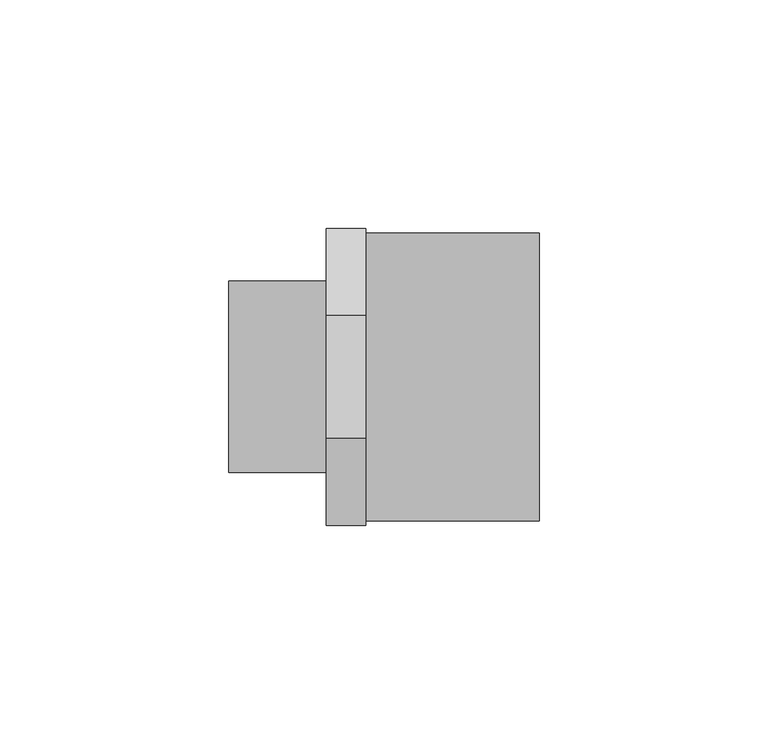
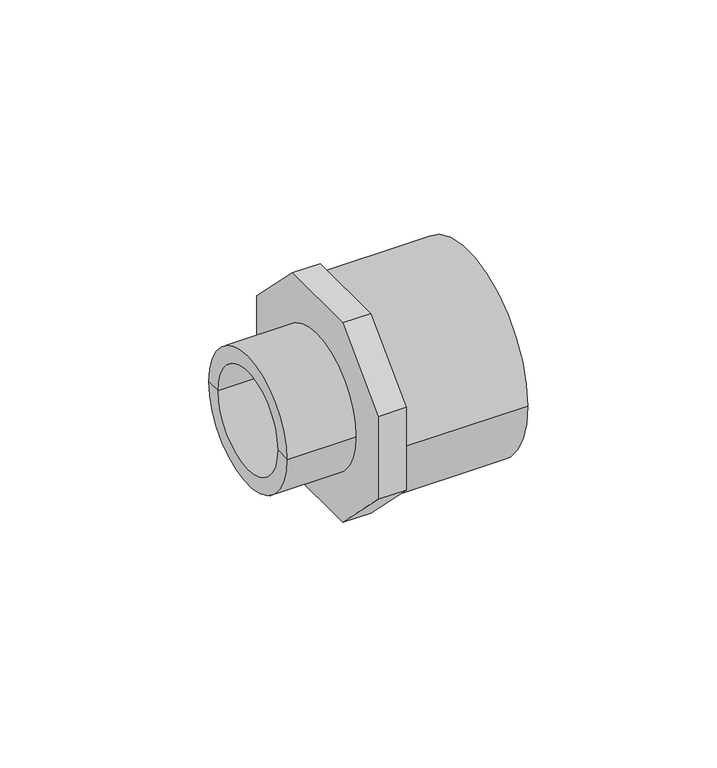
"""IFC4 building model written with IfcOpenShell, lengths in millimetres: pipe fitting geometry, Durapipe_PipeFitting_PVC_MaleThreadedAdaptors : 63 x 50 x G1-1⁄4."""

import ifcopenshell
import ifcopenshell.guid

model = None  # the IFC model being written
_history = None  # IfcOwnerHistory: only IFC2X3 demands one
_inside = {}  # id of a spatial element -> (the spatial element, [elements in it])
_under = {}  # id of a project, library or spatial element -> (it, [spatial elements below it])
_declared = {}  # id of a project -> (the project, [libraries it declares])
_typed = {}  # id of a type object -> (the type object, [elements of that type])
_made_of = {}  # id of a material, layer set ... -> (it, [elements and type objects made of it])


def new_model(schema):
    """Start an empty IFC model of exactly this schema.

    Asked for "IFC4X3", IfcOpenShell would pick the latest addendum, in which some entities
    have other attributes; the version numbers below select the first issue.
    IFC2X3 requires an IfcOwnerHistory on every rooted entity: one is made here for all.
    """
    global model, _history
    if schema == "IFC4X3":
        model = ifcopenshell.file(schema_version=(4, 3, 0, 0))
    else:
        model = ifcopenshell.file(schema=schema)
    _inside.clear()
    _under.clear()
    _declared.clear()
    _typed.clear()
    _made_of.clear()
    _history = None
    if model.schema == "IFC2X3":
        org = make("IfcOrganization", Name="unknown")
        user = make(
            "IfcPersonAndOrganization",
            ThePerson=make("IfcPerson", FamilyName="unknown"),
            TheOrganization=org,
        )
        app = make(
            "IfcApplication",
            ApplicationDeveloper=org,
            Version="unknown",
            ApplicationFullName="unknown",
            ApplicationIdentifier="unknown",
        )
        _history = make(
            "IfcOwnerHistory",
            OwningUser=user,
            OwningApplication=app,
            ChangeAction="ADDED",
            CreationDate=0,
        )
    return model


def make(cls, **values):
    """One entity of the class cls with the attributes given. An attribute that is None is left unset."""
    return model.create_entity(
        cls, **{name: value for name, value in values.items() if value is not None}
    )


def rooted(cls, **values):
    """An entity with a GlobalId (a new one), such as an element, a storey or a relation."""
    return make(cls, GlobalId=ifcopenshell.guid.new(), OwnerHistory=_history, **values)


def si_unit(unit_type, name, prefix=None):
    """IfcSIUnit, for example si_unit("LENGTHUNIT", "METRE", prefix="MILLI")."""
    return make("IfcSIUnit", UnitType=unit_type, Prefix=prefix, Name=name)


def assignment(units):
    """IfcUnitAssignment: the units of a project."""
    return None if units is None else make("IfcUnitAssignment", Units=units)


def point(xyz):
    """IfcCartesianPoint."""
    return None if xyz is None else make("IfcCartesianPoint", Coordinates=xyz)


def direction(xyz):
    """IfcDirection."""
    return None if xyz is None else make("IfcDirection", DirectionRatios=xyz)


def frame(location, z_axis=None, x_axis=None):
    """IfcAxis2Placement3D, a coordinate frame: its origin and axes. An axis left out is left unset."""
    return make(
        "IfcAxis2Placement3D",
        Location=point(location),
        Axis=direction(z_axis),
        RefDirection=direction(x_axis),
    )


def frame_2d(location, x_axis=None):
    """IfcAxis2Placement2D, a coordinate frame in the plane: its origin and x axis."""
    return make(
        "IfcAxis2Placement2D", Location=point(location), RefDirection=direction(x_axis)
    )


def origin():
    """The frame at (0, 0, 0) with its axes left unset."""
    return frame((0.0, 0.0, 0.0))


def origin_2d():
    """The frame at (0, 0) in the plane with its x axis left unset."""
    return frame_2d((0.0, 0.0))


def place(relative_to, where):
    """IfcLocalPlacement: puts the frame where relative to a parent placement (None: the world)."""
    return make(
        "IfcLocalPlacement", PlacementRelTo=relative_to, RelativePlacement=where
    )


def context(
    kind, dimensions, precision=None, world=None, true_north=None, identifier=None
):
    """IfcGeometricRepresentationContext, for example the 3D "Model" context."""
    return make(
        "IfcGeometricRepresentationContext",
        ContextIdentifier=identifier,
        ContextType=kind,
        CoordinateSpaceDimension=dimensions,
        Precision=precision,
        WorldCoordinateSystem=world,
        TrueNorth=true_north,
    )


def project(units=None, contexts=None):
    """IfcProject with its units and contexts."""
    return rooted(
        "IfcProject",
        Name="project",
        RepresentationContexts=contexts,
        UnitsInContext=assignment(units),
    )


def spatial(cls, under=None, at=None, **own):
    """A site, building, storey or space (cls), placed at a placement, below another one or the project."""
    s = rooted(cls, ObjectPlacement=at, **own)
    if under is not None:
        _under.setdefault(under.id(), (under, []))[1].append(s)
    return s


def polyline(points):
    """IfcPolyline through the points."""
    return make("IfcPolyline", Points=[point(p) for p in points])


def circle_curve(where, radius):
    """IfcCircle in the frame where."""
    return make("IfcCircle", Position=where, Radius=radius)


def trimmed(basis, trim1, trim2, sense, master):
    """IfcTrimmedCurve: the piece of a basis curve between two trims."""
    return make(
        "IfcTrimmedCurve",
        BasisCurve=basis,
        Trim1=trim1,
        Trim2=trim2,
        SenseAgreement=sense,
        MasterRepresentation=master,
    )


def segment(curve, same_sense, transition):
    """IfcCompositeCurveSegment."""
    return make(
        "IfcCompositeCurveSegment",
        Transition=transition,
        SameSense=same_sense,
        ParentCurve=curve,
    )


def composite_curve(segments, self_intersect=None):
    """IfcCompositeCurve: segments joined end to end."""
    return make("IfcCompositeCurve", Segments=segments, SelfIntersect=self_intersect)


def outline(outer, holes=None, kind="AREA"):
    """IfcArbitraryClosedProfileDef: a profile drawn as a closed curve; with holes, ...WithVoids."""
    if holes is None:
        return make("IfcArbitraryClosedProfileDef", ProfileType=kind, OuterCurve=outer)
    return make(
        "IfcArbitraryProfileDefWithVoids",
        ProfileType=kind,
        OuterCurve=outer,
        InnerCurves=holes,
    )


def extrude(swept, where, along, depth):
    """IfcExtrudedAreaSolid: the profile swept, set in the frame where, extruded along a direction by depth."""
    return make(
        "IfcExtrudedAreaSolid",
        SweptArea=swept,
        Position=where,
        ExtrudedDirection=direction(along),
        Depth=depth,
    )


def shape(context_of_items, identifier, shape_type, items):
    """IfcShapeRepresentation: the items that make up one representation, for example the "Body"."""
    return make(
        "IfcShapeRepresentation",
        ContextOfItems=context_of_items,
        RepresentationIdentifier=identifier,
        RepresentationType=shape_type,
        Items=items,
    )


def source(mapping_origin, context_of_items, identifier, shape_type, items):
    """IfcRepresentationMap: a shape defined once, which mapped items show again and again."""
    return make(
        "IfcRepresentationMap",
        MappingOrigin=mapping_origin,
        MappedRepresentation=shape(context_of_items, identifier, shape_type, items),
    )


def transform(
    local_origin,
    x_axis=None,
    y_axis=None,
    z_axis=None,
    scale=None,
    scale2=None,
    scale3=None,
    uniform=True,
):
    """IfcCartesianTransformationOperator3D, or its non-uniform kind. x_axis, y_axis, z_axis: its Axis1, 2, 3."""
    if uniform:
        return make(
            "IfcCartesianTransformationOperator3D",
            Axis1=direction(x_axis),
            Axis2=direction(y_axis),
            LocalOrigin=point(local_origin),
            Scale=scale,
            Axis3=direction(z_axis),
        )
    return make(
        "IfcCartesianTransformationOperator3DnonUniform",
        Axis1=direction(x_axis),
        Axis2=direction(y_axis),
        LocalOrigin=point(local_origin),
        Scale=scale,
        Axis3=direction(z_axis),
        Scale2=scale2,
        Scale3=scale3,
    )


def mapped(mapping_source, mapping_target):
    """IfcMappedItem: shows the shape of a source again, moved by a transform."""
    return make(
        "IfcMappedItem", MappingSource=mapping_source, MappingTarget=mapping_target
    )


def made_of(thing, what):
    """Note that an element or type object is made of a material, layer set ...; save() writes the relation."""
    if what is not None:
        _made_of.setdefault(what.id(), (what, []))[1].append(thing)
    return thing


def element(
    cls,
    number,
    at=None,
    inside=None,
    cuts=None,
    type_object=None,
    material=None,
    context=None,
    identifier="Body",
    shape_type=None,
    held_by="IfcProductDefinitionShape",
    body=None,
    shapes=None,
    **own,
):
    """One element of the class cls, such as IfcWall. Its Tag is "e" and its number.

    at: its placement. inside: the storey or other place that contains it. cuts: it is an
    opening in that element (IfcRelVoidsElement). A single representation is given by context,
    identifier, shape_type and body (its items); several are given by shapes. held_by: the class
    of the entity that holds the representations. save() writes the other relations.
    """
    e = rooted(cls, Tag="e%d" % number, ObjectPlacement=at, **own)
    if body is not None:
        shapes = [shape(context, identifier, shape_type, body)]
    if shapes is not None:
        e.Representation = make(held_by, Representations=shapes)
    if inside is not None:
        _inside.setdefault(inside.id(), (inside, []))[1].append(e)
    if cuts is not None:
        rooted(
            "IfcRelVoidsElement", RelatingBuildingElement=cuts, RelatedOpeningElement=e
        )
    if type_object is not None:
        _typed.setdefault(type_object.id(), (type_object, []))[1].append(e)
    return made_of(e, material)


def aggregate(whole, parts):
    """IfcRelAggregates: a whole, such as a stair, and the parts it consists of."""
    return rooted("IfcRelAggregates", RelatingObject=whole, RelatedObjects=parts)


def save(model, path):
    """Write the relations noted so far, then the file.

    IfcRelAggregates (storeys below a building ...), IfcRelContainedInSpatialStructure (elements
    in a storey), IfcRelDefinesByType, IfcRelAssociatesMaterial and IfcRelDeclares: one each for
    every whole, place, type object, material and project.
    """
    for whole, parts in _under.values():
        aggregate(whole, parts)
    for where, things in _inside.values():
        rooted(
            "IfcRelContainedInSpatialStructure",
            RelatedElements=things,
            RelatingStructure=where,
        )
    for kind, things in _typed.values():
        rooted("IfcRelDefinesByType", RelatedObjects=things, RelatingType=kind)
    for what, things in _made_of.values():
        rooted("IfcRelAssociatesMaterial", RelatedObjects=things, RelatingMaterial=what)
    for by, libraries in _declared.values():
        rooted("IfcRelDeclares", RelatingContext=by, RelatedDefinitions=libraries)
    model.write(path)


def plane_surface(at):
    """IfcPlane: the flat surface through the origin of the frame at, square to its z axis."""
    return make("IfcPlane", Position=at)


def cylinder_surface(at, radius):
    """IfcCylindricalSurface: all points at the distance radius from the z axis of the frame at."""
    return make("IfcCylindricalSurface", Position=at, Radius=radius)


def revolved_surface(curve, axis_point, axis_direction):
    """IfcSurfaceOfRevolution: the curve turned about the line through axis_point along axis_direction."""
    return make(
        "IfcSurfaceOfRevolution",
        SweptCurve=make("IfcArbitraryOpenProfileDef", ProfileType="CURVE", Curve=curve),
        AxisPosition=make("IfcAxis1Placement", Location=point(axis_point), Axis=direction(axis_direction)),
    )


def advanced_brep(points, edges, surfaces, faces):
    """IfcAdvancedBrep: a solid bounded by faces that lie on surfaces and meet in shared edges.

    An edge is (start, end): straight between two places in points (the first is 0);
    or (start, end, curve); or (start, end, curve, False) where it runs against its curve.
    A face is (place in surfaces, loops), or (place, loops, False) where it looks against
    its surface's normal. A loop lists edges by number (the first is 1), with a minus sign
    where the edge is run from its end to its start. The first loop is the outer one.
    """
    corners = [point(p) for p in points]
    vertices = [make("IfcVertexPoint", VertexGeometry=c) for c in corners]
    made = []
    for start, end, *more in edges:
        made.append(
            make(
                "IfcEdgeCurve",
                EdgeStart=vertices[start],
                EdgeEnd=vertices[end],
                EdgeGeometry=more[0] if more else make("IfcPolyline", Points=[corners[start], corners[end]]),
                SameSense=more[1] if len(more) > 1 else True,
            )
        )
    hull = []
    for where, loops, *sense in faces:
        bounds = []
        for j, loop in enumerate(loops):
            ring = [make("IfcOrientedEdge", EdgeElement=made[abs(k) - 1], Orientation=k > 0) for k in loop]
            bounds.append(
                make(
                    "IfcFaceOuterBound" if j == 0 else "IfcFaceBound",
                    Bound=make("IfcEdgeLoop", EdgeList=ring),
                    Orientation=True,
                )
            )
        hull.append(make("IfcAdvancedFace", Bounds=bounds, FaceSurface=surfaces[where], SameSense=sense[0] if sense else True))
    return make("IfcAdvancedBrep", Outer=make("IfcClosedShell", CfsFaces=hull))


def pipe_fitting_deb0e6cc(model_context):
    return source(origin(), model_context, "Body", "SolidModel", [
        extrude(outline(polyline([(32.5, 13.4619408), (32.5, -13.4619408), (13.4619408, -32.5), (-13.4619408, -32.5), (-32.5, -13.4619408), (-32.5, 13.4619408), (-13.4619408, 32.5), (13.4619408, 32.5), (32.5, 13.4619408)]), holes=[composite_curve([segment(trimmed(circle_curve(origin_2d(), 16.0), [point((16.0, 0.0))], [point((-16.0, 0.0))], True, "CARTESIAN"), True, "CONTINUOUS"), segment(trimmed(circle_curve(origin_2d(), 16.0), [point((-16.0, 0.0))], [point((16.0, 0.0))], True, "CARTESIAN"), True, "CONTINUOUS")], self_intersect=False)]), frame((-8.6, 0.0, 0.0), z_axis=(1.0, 0.0, 0.0), x_axis=(0.0, 1.0, 0.0)), (0.0, 0.0, 1.0), 8.6),
        advanced_brep(
        [(0.0, -31.5, 0.0), (0.0, 31.5, 0.0), (38.0, 31.5, 0.0), (38.0, -31.5, 0.0), (38.0, 25.0, 0.0), (38.0, -25.0, 0.0), (0.0, 0.0, 0.0), (7.0, 25.0, 0.0), (7.0, -25.0, 0.0), (7.0, 0.0, 0.0)],
        [
            (0, 1, circle_curve(frame((0.0, 0.0, 0.0), z_axis=(1.0, 0.0, 0.0), x_axis=(0.0, 1.0, 0.0)), 31.5)),
            (1, 2),
            (2, 3, circle_curve(frame((38.0, 0.0, 0.0), z_axis=(-1.0, 0.0, 0.0), x_axis=(0.0, 1.0, 0.0)), 31.5)),
            (3, 0),
            (1, 0, circle_curve(frame((0.0, 0.0, 0.0), z_axis=(1.0, 0.0, 0.0), x_axis=(0.0, 1.0, 0.0)), 31.5)),
            (3, 2, circle_curve(frame((38.0, 0.0, 0.0), z_axis=(-1.0, 0.0, 0.0), x_axis=(0.0, 1.0, 0.0)), 31.5)),
            (2, 4),
            (4, 5, circle_curve(frame((38.0, 0.0, 0.0), z_axis=(-1.0, 0.0, 0.0), x_axis=(0.0, 1.0, 0.0)), 25.0)),
            (5, 3),
            (5, 4, circle_curve(frame((38.0, 0.0, 0.0), z_axis=(-1.0, 0.0, 0.0), x_axis=(0.0, 1.0, 0.0)), 25.0)),
            (0, 6),
            (6, 1),
            (7, 8, circle_curve(frame((7.0, 0.0, 0.0), z_axis=(-1.0, 0.0, 0.0), x_axis=(0.0, 1.0, 0.0)), 25.0)),
            (8, 5),
            (4, 7),
            (8, 7, circle_curve(frame((7.0, 0.0, 0.0), z_axis=(-1.0, 0.0, 0.0), x_axis=(0.0, 1.0, 0.0)), 25.0)),
            (7, 9),
            (9, 8),
        ],
        [
            cylinder_surface(frame((439.4572068, 0.0, 0.0), z_axis=(-1.0, 0.0, 0.0), x_axis=(0.0, 1.0, 0.0)), 31.5),
            plane_surface(frame((38.0, 0.0, 0.0), z_axis=(1.0, 0.0, 0.0), x_axis=(0.0, 1.0, 0.0))),
            plane_surface(frame((0.0, 0.0, 0.0), z_axis=(-1.0, 0.0, 0.0), x_axis=(0.0, 1.0, 0.0))),
            revolved_surface(polyline([(7.0, 25.0, 0.0), (38.0, 25.0, 0.0)]), (51.5575137, 0.0, 0.0), (-1.0, 0.0, 0.0)),
            plane_surface(frame((7.0, 0.0, 0.0), z_axis=(1.0, 0.0, 0.0), x_axis=(0.0, 1.0, 0.0))),
        ],
        [
            (0, [[1, 2, 3, 4]]),
            (0, [[-2, 5, -4, 6]]),
            (1, [[-3, 7, 8, 9]]),
            (1, [[-6, -9, 10, -7]]),
            (2, [[-1, 11, 12]]),
            (2, [[-5, -12, -11]]),
            (3, [[13, 14, -8, 15]]),
            (3, [[16, -15, -10, -14]]),
            (4, [[-13, 17, 18]]),
            (4, [[-16, -18, -17]]),
        ],
    ),
        advanced_brep(
        [(-8.6, -16.0, 0.0), (-8.6, 16.0, 0.0), (-30.0, 16.0, 0.0), (-30.0, -16.0, 0.0), (-8.6, -20.95, 0.0), (-8.6, 20.95, 0.0), (-30.0, -20.95, 0.0), (-30.0, 20.95, 0.0)],
        [
            (0, 1, circle_curve(frame((-8.6, 0.0, 0.0), z_axis=(1.0, 0.0, 0.0), x_axis=(0.0, 1.0, 0.0)), 16.0)),
            (1, 2),
            (2, 3, circle_curve(frame((-30.0, 0.0, 0.0), z_axis=(-1.0, 0.0, 0.0), x_axis=(0.0, 1.0, 0.0)), 16.0)),
            (3, 0),
            (1, 0, circle_curve(frame((-8.6, 0.0, 0.0), z_axis=(1.0, 0.0, 0.0), x_axis=(0.0, 1.0, 0.0)), 16.0)),
            (3, 2, circle_curve(frame((-30.0, 0.0, 0.0), z_axis=(-1.0, 0.0, 0.0), x_axis=(0.0, 1.0, 0.0)), 16.0)),
            (4, 5, circle_curve(frame((-8.6, 0.0, 0.0), z_axis=(1.0, 0.0, 0.0), x_axis=(0.0, 1.0, 0.0)), 20.95)),
            (5, 1),
            (0, 4),
            (5, 4, circle_curve(frame((-8.6, 0.0, 0.0), z_axis=(1.0, 0.0, 0.0), x_axis=(0.0, 1.0, 0.0)), 20.95)),
            (6, 7, circle_curve(frame((-30.0, 0.0, 0.0), z_axis=(1.0, 0.0, 0.0), x_axis=(0.0, 1.0, 0.0)), 20.95)),
            (7, 5),
            (4, 6),
            (7, 6, circle_curve(frame((-30.0, 0.0, 0.0), z_axis=(1.0, 0.0, 0.0), x_axis=(0.0, 1.0, 0.0)), 20.95)),
            (2, 7),
            (6, 3),
        ],
        [
            revolved_surface(polyline([(-30.0, 16.0, 0.0), (-8.600000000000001, 16.0, 0.0)]), (-45.0, 0.0, 0.0), (-1.0, 0.0, 0.0)),
            plane_surface(frame((-8.6, 0.0, 0.0), z_axis=(1.0, 0.0, 0.0), x_axis=(0.0, 1.0, 0.0))),
            cylinder_surface(frame((-45.0, 0.0, 0.0), z_axis=(-1.0, 0.0, 0.0), x_axis=(0.0, 1.0, 0.0)), 20.95),
            plane_surface(frame((-30.0, 0.0, 0.0), z_axis=(-1.0, 0.0, 0.0), x_axis=(0.0, 1.0, 0.0))),
        ],
        [
            (0, [[1, 2, 3, 4]]),
            (0, [[5, -4, 6, -2]]),
            (1, [[7, 8, -1, 9]]),
            (1, [[10, -9, -5, -8]]),
            (2, [[11, 12, -7, 13]]),
            (2, [[14, -13, -10, -12]]),
            (3, [[-3, 15, -11, 16]]),
            (3, [[-6, -16, -14, -15]]),
        ],
    ),
    ])


if __name__ == "__main__":
    model = new_model("IFC4")
    model_context = context("Model", 3, world=origin())
    ifc_project = project(units=[si_unit("LENGTHUNIT", "METRE", prefix="MILLI")], contexts=[model_context])
    site = spatial("IfcSite", under=ifc_project)
    building = spatial("IfcBuilding", under=site)
    placement = place(None, origin())
    pipe_fitting_shape = pipe_fitting_deb0e6cc(model_context)
    element("IfcPipeFitting", 1, ObjectType="Durapipe_PipeFitting_PVC_MaleThreadedAdaptors : 63 x 50 x G1-1⁄4", at=placement, inside=building, context=model_context, shape_type="MappedRepresentation", body=[
        mapped(pipe_fitting_shape, transform((0.0, 0.0, 0.0), x_axis=(1.0, 0.0, 0.0), y_axis=(0.0, 1.0, 0.0), z_axis=(0.0, 0.0, 1.0))),
    ])
    save(model, "model.ifc")
